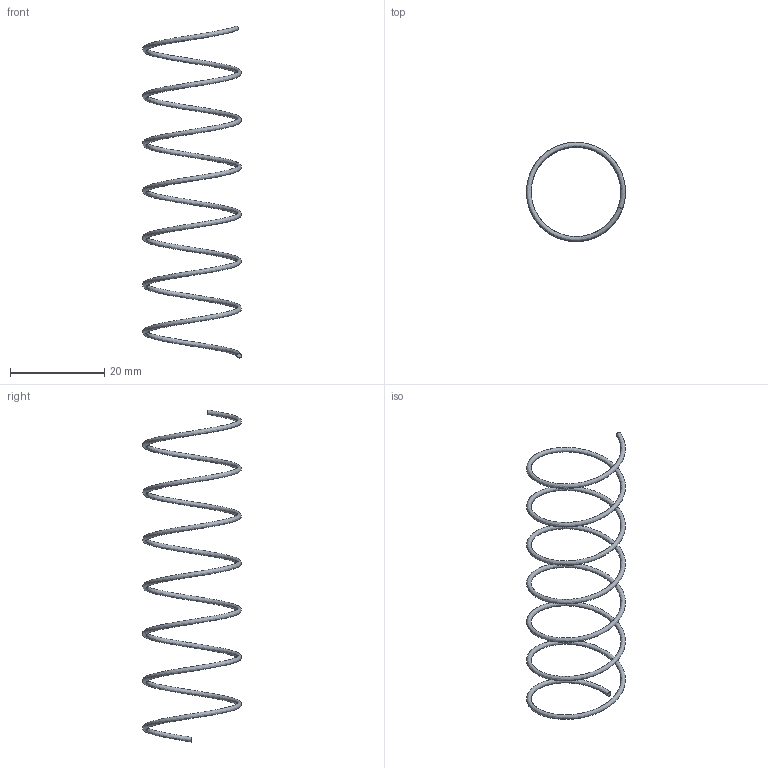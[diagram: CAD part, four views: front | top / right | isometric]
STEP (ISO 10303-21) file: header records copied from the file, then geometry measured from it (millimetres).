
FILE_DESCRIPTION( ( 'STEP AP203' ), '1' );
FILE_NAME( 'D:/Cuma/25 06 2009/D60.01/D60.01_20/D60.01_2070.step', '2003-02-03T13:33:48', ( ' ' ), ( ' ' ), 'XStep 1.0', ' ', ' ' );
FILE_SCHEMA( ( 'CONFIG_CONTROL_DESIGN' ) );
Length unit declared in the file: metre
Products named in the file (1): 1
Bounding box: 21 x 21 x 70.44 mm (x, y, z)
Volume: 339.3 mm3; surface area: 1374.3 mm2
Topology: 1 solids, 1 shells, 3 faces, 3 edges, 2 vertices
Faces by surface type: plane 2, bspline 1
Entity records: 1119 total; most frequent: CARTESIAN_POINT 1037, DIRECTION 6, CC_DESIGN_PERSON_AND_ORGANIZATION_ASSIGNMENT 5, PERSON_AND_ORGANIZATION_ROLE 4, FACE_OUTER_BOUND 4, EDGE_LOOP 4, ORIENTED_EDGE 4, AXIS2_PLACEMENT_3D 3
